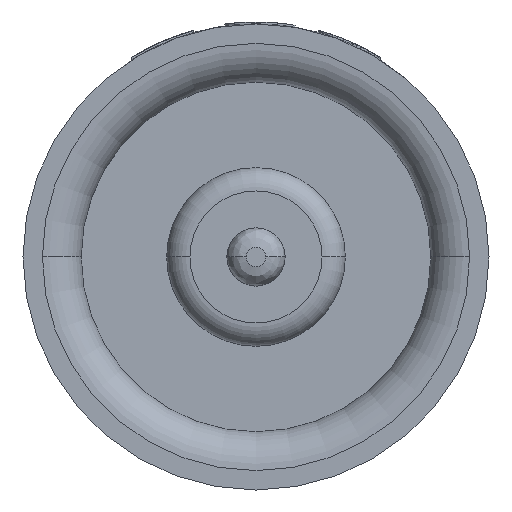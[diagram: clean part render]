
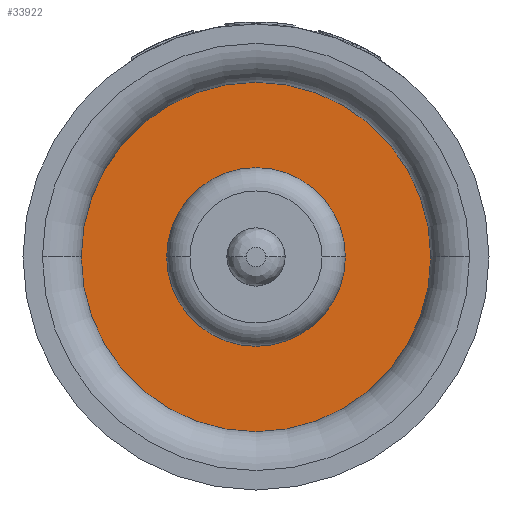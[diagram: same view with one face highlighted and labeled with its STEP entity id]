
A CAD part, left-side view. The second image highlights one B-rep face of the part: STEP entity #33922.
In plain terms, the highlighted planar face has unit normal (-1, 0, 0).
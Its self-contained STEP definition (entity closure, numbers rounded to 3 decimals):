
#17659=CARTESIAN_POINT('',(3.95,0.,0.));
#17660=DIRECTION('',(1.,0.,0.));
#17661=DIRECTION('',(0.,1.,0.));
#17662=AXIS2_PLACEMENT_3D('',#17659,#17660,#17661);
#17667=CARTESIAN_POINT('',(3.95,0.,0.));
#17668=DIRECTION('',(-1.,0.,0.));
#17669=DIRECTION('',(0.,1.,0.));
#17670=AXIS2_PLACEMENT_3D('',#17667,#17668,#17669);
#17683=CARTESIAN_POINT('',(3.95,0.,0.));
#17684=DIRECTION('',(-1.,0.,0.));
#17685=DIRECTION('',(0.,1.,0.));
#17686=AXIS2_PLACEMENT_3D('',#17683,#17684,#17685);
#17816=CARTESIAN_POINT('',(3.95,0.,0.));
#17817=DIRECTION('',(1.,0.,0.));
#17818=DIRECTION('',(0.,1.,0.));
#17819=AXIS2_PLACEMENT_3D('',#17816,#17817,#17818);
#17883=CARTESIAN_POINT('',(3.95,1.15,0.));
#17884=VERTEX_POINT('',#17883);
#17885=CARTESIAN_POINT('',(3.95,-1.15,0.));
#17886=VERTEX_POINT('',#17885);
#17895=CARTESIAN_POINT('',(3.95,2.325,0.));
#17896=VERTEX_POINT('',#17895);
#17897=CARTESIAN_POINT('',(3.95,-2.325,0.));
#17898=VERTEX_POINT('',#17897);
#33907=CARTESIAN_POINT('',(3.95,0.,0.));
#33908=DIRECTION('',(-1.,0.,0.));
#33909=DIRECTION('',(0.,1.,0.));
#33910=AXIS2_PLACEMENT_3D('',#33907,#33908,#33909);
#33911=PLANE('',#33910);
#33912=ORIENTED_EDGE('',*,*,#33863,.T.);
#33913=ORIENTED_EDGE('',*,*,#33848,.F.);
#33914=EDGE_LOOP('',(#33912,#33913));
#33915=FACE_OUTER_BOUND('',#33914,.F.);
#33917=ORIENTED_EDGE('',*,*,#33916,.T.);
#33919=ORIENTED_EDGE('',*,*,#33918,.F.);
#33920=EDGE_LOOP('',(#33917,#33919));
#33921=FACE_BOUND('',#33920,.F.);
#33922=ADVANCED_FACE('',(#33915,#33921),#33911,.T.);
#17663=CIRCLE('',#17662,2.325);
#17671=CIRCLE('',#17670,2.325);
#17687=CIRCLE('',#17686,1.15);
#17820=CIRCLE('',#17819,1.15);
#33848=EDGE_CURVE('',#17896,#17898,#17671,.T.);
#33863=EDGE_CURVE('',#17896,#17898,#17663,.T.);
#33916=EDGE_CURVE('',#17884,#17886,#17687,.T.);
#33918=EDGE_CURVE('',#17884,#17886,#17820,.T.);
